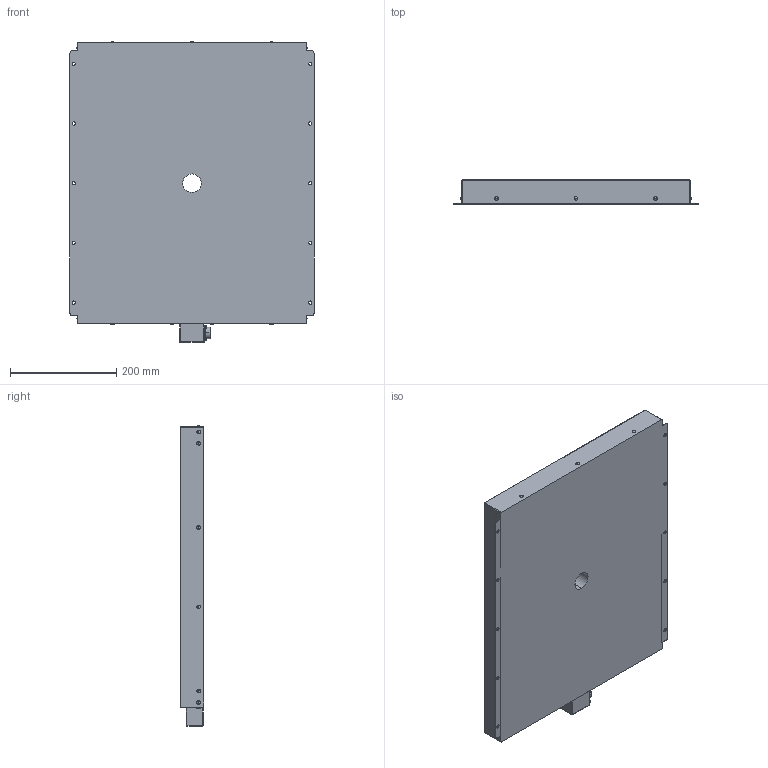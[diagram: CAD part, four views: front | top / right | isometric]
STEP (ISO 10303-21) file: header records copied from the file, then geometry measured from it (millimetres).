
FILE_DESCRIPTION (( 'STEP AP203' ), '1' );
FILE_NAME ('IFPA-500_400A仩-35D(奜娤恾).STEP', '2016-06-23T04:18:22', ( 'imac139_182' ), ( 'Microsoft' ), 'SwSTEP 2.0', 'SolidWorks 2014', '' );
FILE_SCHEMA (( 'CONFIG_CONTROL_DESIGN' ));
Length unit declared in the file: millimetre
Products named in the file (1): IFPA-500_400A仩-35D(奜娤恾)
Bounding box: 460 x 45 x 566.9 mm (x, y, z)
Volume: 10083007.4 mm3; surface area: 583085.4 mm2
Topology: 1 solids, 1 shells, 208 faces, 530 edges, 339 vertices
Faces by surface type: cylinder 104, sphere 62, plane 32, torus 8, cone 2
Entity records: 6385 total; most frequent: DIRECTION 1250, CARTESIAN_POINT 1046, ORIENTED_EDGE 1012, AXIS2_PLACEMENT_3D 535, EDGE_CURVE 506, VERTEX_POINT 331, CIRCLE 326, EDGE_LOOP 261
